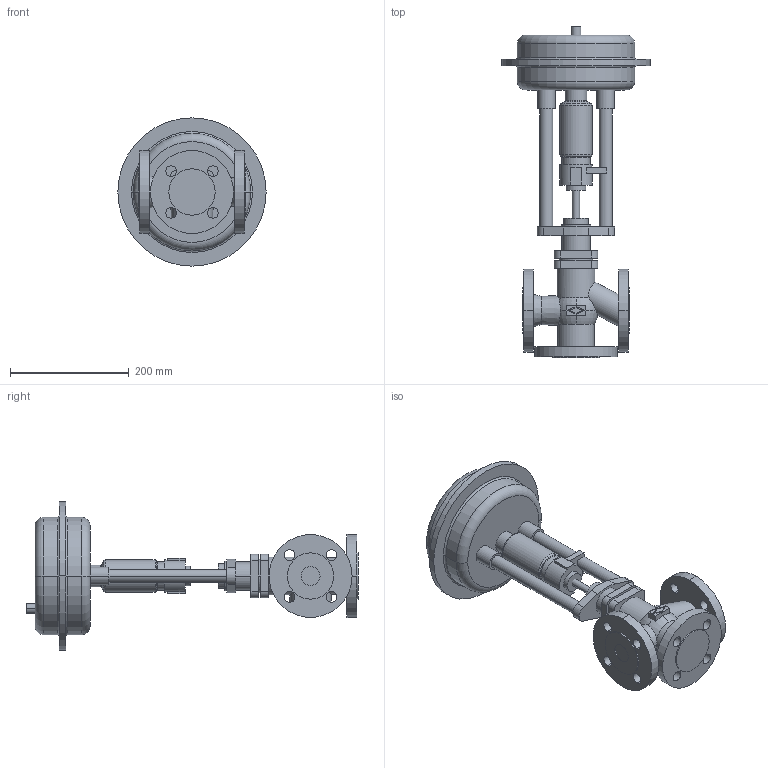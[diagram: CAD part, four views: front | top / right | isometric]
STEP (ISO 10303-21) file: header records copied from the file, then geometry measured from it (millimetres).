
FILE_DESCRIPTION(('OneSpaceDesigner STEP Export'),'2;1');
FILE_NAME('c000000653.stp','2006-09-13T12:58:36',(''),(''),'OneSpace Designer STEP processor for AP214 (Solid Model)','OneSpace Designer 13.20A 18-Aug-2005 (C) CoCreate Software GmbH','');
FILE_SCHEMA(('AUTOMOTIVE_DESIGN { 1 0 10303 214 1 1 1 1 }'));
Length unit declared in the file: millimetre
Products named in the file (2): 1; 2
Bounding box: 250 x 560 x 250 mm (x, y, z)
Volume: 5243390.4 mm3; surface area: 410639.2 mm2
Topology: 2 solids, 2 shells, 203 faces, 491 edges, 320 vertices
Faces by surface type: cylinder 96, plane 77, torus 22, cone 8
Entity records: 5588 total; most frequent: CARTESIAN_POINT 1209, ORIENTED_EDGE 982, DIRECTION 796, EDGE_CURVE 491, VERTEX_POINT 320, AXIS2_PLACEMENT_3D 291, EDGE_LOOP 255, VECTOR 214
